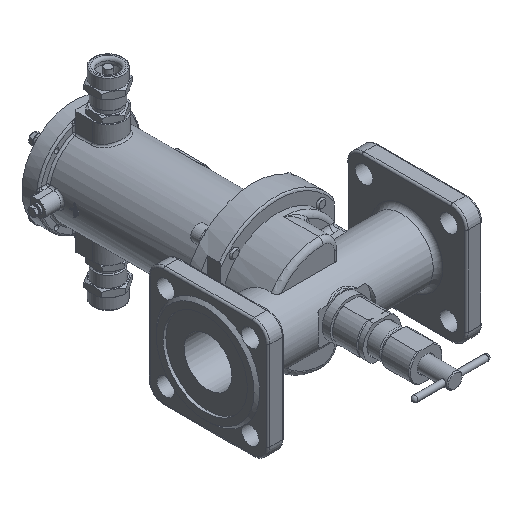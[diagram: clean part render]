
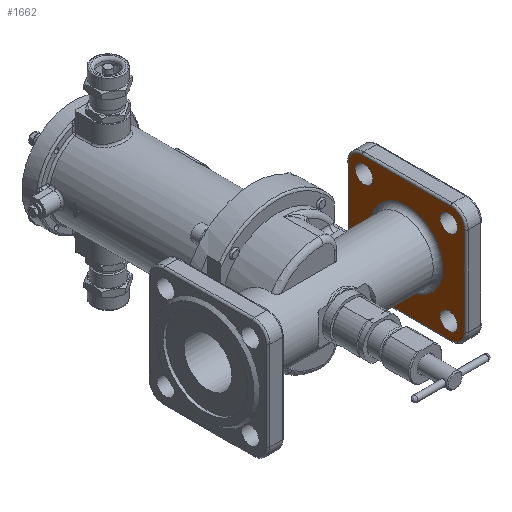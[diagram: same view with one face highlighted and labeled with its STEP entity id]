
A CAD part, isometric view. The second image highlights one B-rep face of the part: STEP entity #1662.
In plain terms, the highlighted planar face has unit normal (-1, 0, 0).
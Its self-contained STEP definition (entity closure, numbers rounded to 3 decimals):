
#1662=ADVANCED_FACE('',(#17932,#17934,#17936,#17938,#17940,#17942),#17944,.T.);
#17932=FACE_BOUND('',#17933,.T.);
#17933=EDGE_LOOP('',(#28944));
#17934=FACE_BOUND('',#17935,.T.);
#17935=EDGE_LOOP('',(#28945));
#17936=FACE_BOUND('',#17937,.T.);
#17937=EDGE_LOOP('',(#28946));
#17938=FACE_BOUND('',#17939,.T.);
#17939=EDGE_LOOP('',(#28947));
#17940=FACE_BOUND('',#17941,.T.);
#17941=EDGE_LOOP('',(#28948));
#17942=FACE_OUTER_BOUND('',#17943,.T.);
#17943=EDGE_LOOP('',(#28949,#28950,#28951,#28952,#28953,#28954,#28955,#28956));
#17944=PLANE('',#17945);
#17945=AXIS2_PLACEMENT_3D('',#17946,#17947,#17948);
#17946=CARTESIAN_POINT('',(95.,0.,0.));
#17947=DIRECTION('',(-1.,0.,0.));
#17948=DIRECTION('',(0.,1.,0.));
#28944=ORIENTED_EDGE('',*,*,#36012,.F.);
#28945=ORIENTED_EDGE('',*,*,#36094,.T.);
#28946=ORIENTED_EDGE('',*,*,#36095,.T.);
#28947=ORIENTED_EDGE('',*,*,#36096,.T.);
#28948=ORIENTED_EDGE('',*,*,#36097,.T.);
#28949=ORIENTED_EDGE('',*,*,#36098,.T.);
#28950=ORIENTED_EDGE('',*,*,#36099,.T.);
#28951=ORIENTED_EDGE('',*,*,#36100,.T.);
#28952=ORIENTED_EDGE('',*,*,#36101,.T.);
#28953=ORIENTED_EDGE('',*,*,#36102,.T.);
#28954=ORIENTED_EDGE('',*,*,#36103,.T.);
#28955=ORIENTED_EDGE('',*,*,#36104,.T.);
#28956=ORIENTED_EDGE('',*,*,#36105,.T.);
#36012=EDGE_CURVE('',#43713,#43713,#43715,.T.);
#36094=EDGE_CURVE('',#43848,#43848,#43849,.T.);
#36095=EDGE_CURVE('',#43850,#43850,#43851,.T.);
#36096=EDGE_CURVE('',#43852,#43852,#43853,.T.);
#36097=EDGE_CURVE('',#43854,#43854,#43855,.T.);
#36098=EDGE_CURVE('',#43856,#43857,#43858,.T.);
#36099=EDGE_CURVE('',#43857,#43859,#43860,.F.);
#36100=EDGE_CURVE('',#43859,#43861,#43862,.T.);
#36101=EDGE_CURVE('',#43861,#43863,#43864,.F.);
#36102=EDGE_CURVE('',#43863,#43865,#43866,.T.);
#36103=EDGE_CURVE('',#43865,#43867,#43868,.F.);
#36104=EDGE_CURVE('',#43867,#43869,#43870,.T.);
#36105=EDGE_CURVE('',#43869,#43856,#43871,.F.);
#43713=VERTEX_POINT('',#68288);
#43715=CIRCLE('',#68293,38.);
#43848=VERTEX_POINT('',#69739);
#43849=CIRCLE('',#69740,9.);
#43850=VERTEX_POINT('',#69744);
#43851=CIRCLE('',#69745,9.);
#43852=VERTEX_POINT('',#69749);
#43853=CIRCLE('',#69750,9.);
#43854=VERTEX_POINT('',#69754);
#43855=CIRCLE('',#69755,9.);
#43856=VERTEX_POINT('',#69759);
#43857=VERTEX_POINT('',#69760);
#43858=LINE('',#69761,#69762);
#43859=VERTEX_POINT('',#69764);
#43860=CIRCLE('',#69765,14.109);
#43861=VERTEX_POINT('',#69769);
#43862=LINE('',#69770,#69771);
#43863=VERTEX_POINT('',#69773);
#43864=CIRCLE('',#69774,14.109);
#43865=VERTEX_POINT('',#69778);
#43866=LINE('',#69779,#69780);
#43867=VERTEX_POINT('',#69782);
#43868=CIRCLE('',#69783,14.109);
#43869=VERTEX_POINT('',#69787);
#43870=LINE('',#69788,#69789);
#43871=CIRCLE('',#69791,14.109);
#68288=CARTESIAN_POINT('',(95.,38.,0.));
#68293=AXIS2_PLACEMENT_3D('',#68294,#68295,#68296);
#68294=CARTESIAN_POINT('',(95.,0.,0.));
#68295=DIRECTION('',(-1.,0.,0.));
#68296=DIRECTION('',(0.,1.,0.));
#69739=CARTESIAN_POINT('',(95.,44.194,-53.194));
#69740=AXIS2_PLACEMENT_3D('',#69741,#69742,#69743);
#69741=CARTESIAN_POINT('',(95.,44.194,-44.194));
#69742=DIRECTION('',(1.,0.,0.));
#69743=DIRECTION('',(0.,0.,-1.));
#69744=CARTESIAN_POINT('',(95.,-44.194,-53.194));
#69745=AXIS2_PLACEMENT_3D('',#69746,#69747,#69748);
#69746=CARTESIAN_POINT('',(95.,-44.194,-44.194));
#69747=DIRECTION('',(1.,0.,0.));
#69748=DIRECTION('',(0.,0.,-1.));
#69749=CARTESIAN_POINT('',(95.,44.194,53.194));
#69750=AXIS2_PLACEMENT_3D('',#69751,#69752,#69753);
#69751=CARTESIAN_POINT('',(95.,44.194,44.194));
#69752=DIRECTION('',(1.,0.,0.));
#69753=DIRECTION('',(0.,0.,1.));
#69754=CARTESIAN_POINT('',(95.,-44.194,53.194));
#69755=AXIS2_PLACEMENT_3D('',#69756,#69757,#69758);
#69756=CARTESIAN_POINT('',(95.,-44.194,44.194));
#69757=DIRECTION('',(1.,0.,0.));
#69758=DIRECTION('',(0.,0.,1.));
#69759=CARTESIAN_POINT('',(95.,-46.391,60.5));
#69760=CARTESIAN_POINT('',(95.,46.391,60.5));
#69761=CARTESIAN_POINT('',(95.,-46.391,60.5));
#69762=VECTOR('',#69763,1.);
#69763=DIRECTION('',(0.,1.,0.));
#69764=CARTESIAN_POINT('',(95.,60.5,46.391));
#69765=AXIS2_PLACEMENT_3D('',#69766,#69767,#69768);
#69766=CARTESIAN_POINT('',(95.,46.391,46.391));
#69767=DIRECTION('',(1.,0.,0.));
#69768=DIRECTION('',(0.,1.,0.));
#69769=CARTESIAN_POINT('',(95.,60.5,-46.391));
#69770=CARTESIAN_POINT('',(95.,60.5,46.391));
#69771=VECTOR('',#69772,1.);
#69772=DIRECTION('',(0.,0.,-1.));
#69773=CARTESIAN_POINT('',(95.,46.391,-60.5));
#69774=AXIS2_PLACEMENT_3D('',#69775,#69776,#69777);
#69775=CARTESIAN_POINT('',(95.,46.391,-46.391));
#69776=DIRECTION('',(1.,0.,0.));
#69777=DIRECTION('',(0.,0.,-1.));
#69778=CARTESIAN_POINT('',(95.,-46.391,-60.5));
#69779=CARTESIAN_POINT('',(95.,46.391,-60.5));
#69780=VECTOR('',#69781,1.);
#69781=DIRECTION('',(0.,-1.,0.));
#69782=CARTESIAN_POINT('',(95.,-60.5,-46.391));
#69783=AXIS2_PLACEMENT_3D('',#69784,#69785,#69786);
#69784=CARTESIAN_POINT('',(95.,-46.391,-46.391));
#69785=DIRECTION('',(1.,0.,0.));
#69786=DIRECTION('',(0.,-1.,0.));
#69787=CARTESIAN_POINT('',(95.,-60.5,46.391));
#69788=CARTESIAN_POINT('',(95.,-60.5,-46.391));
#69789=VECTOR('',#69790,1.);
#69790=DIRECTION('',(0.,0.,1.));
#69791=AXIS2_PLACEMENT_3D('',#69792,#69793,#69794);
#69792=CARTESIAN_POINT('',(95.,-46.391,46.391));
#69793=DIRECTION('',(1.,0.,0.));
#69794=DIRECTION('',(0.,0.,1.));
